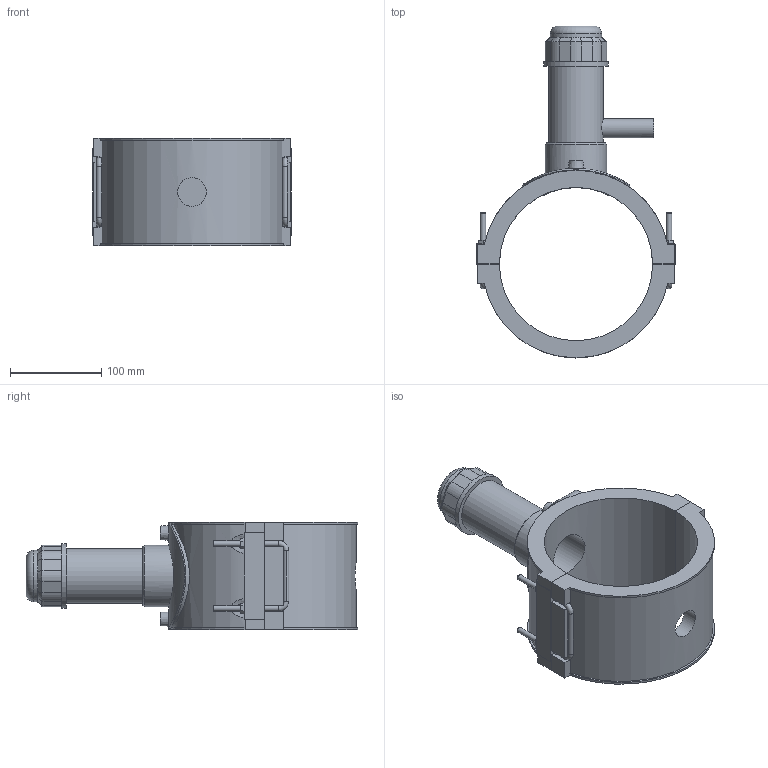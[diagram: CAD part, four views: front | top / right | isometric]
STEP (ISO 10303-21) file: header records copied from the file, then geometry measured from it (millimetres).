
FILE_DESCRIPTION(/* description */ ('PLASSON TAPPING SADDLE 6''''IPS x 1 1/2''''IPS'),/* implementation_level */ '2;1');
FILE_NAME(/* name */ 'C:\Dropbox\KIMPROJECTS-Inventor 2019\99-16-3568-Processing Inch\ASTM ElectroFusion 2021\5963B\5963BB03060005.ipt.stp',/* time_stamp */ '2021-08-30T09:55:29+03:00',/* author */ ('KIM'),/* organization */ (''),/* preprocessor_version */ 'ST-DEVELOPER v17.2',/* originating_system */ 'Autodesk Inventor 2019',/* authorisation */ '');
FILE_SCHEMA (('AUTOMOTIVE_DESIGN { 1 0 10303 214 3 1 1 }'));
Length unit declared in the file: millimetre
Products named in the file (1): 5963BB03060005
Bounding box: 217.9 x 363.85 x 118.11 mm (x, y, z)
Volume: 1510136.3 mm3; surface area: 248799.5 mm2
Topology: 1 solids, 1 shells, 198 faces, 533 edges, 350 vertices
Faces by surface type: plane 120, cylinder 53, cone 15, torus 5, bspline 5
Full cylindrical faces by diameter (mm): 4 x2, 6 x7, 10 x2, 16.96 x1, 21.2 x1, 31.36 x1, 49.392 x1, 56.448 x1, 59.976 x1, 67.032 x1, 70.56 x1, 117.6 x1
Entity records: 7460 total; most frequent: CARTESIAN_POINT 2339, ORIENTED_EDGE 1088, DIRECTION 1024, EDGE_CURVE 544, VERTEX_POINT 350, AXIS2_PLACEMENT_3D 346, LINE 332, VECTOR 332
